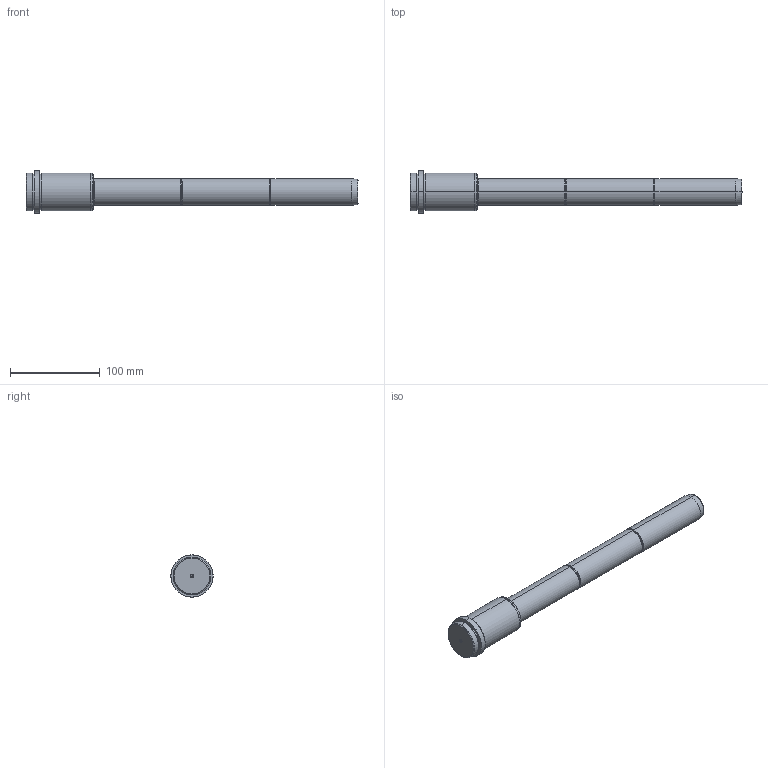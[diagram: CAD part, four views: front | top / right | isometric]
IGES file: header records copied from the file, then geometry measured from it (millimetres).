
Start section: SolidWorks IGES FILE using analytic representation for surfaces
Global section: file name: D:\zzzzz\Delta\D03\30\D03 - 30x66x295.IGS; native system: SolidWorks 2004 by SolidWorks Corporation; preprocessor: Version 5.3; author: Hkn; date: 080327.163332; units: millimetre
Bounding box: 370 x 47 x 47 mm (x, y, z)
Surface area: 41256.5 mm2 (no closed solid volume)
Topology: 0 solids, 0 shells, 56 faces, 1120 edges, 1116 vertices
Faces by surface type: revolution 36, bspline 20
